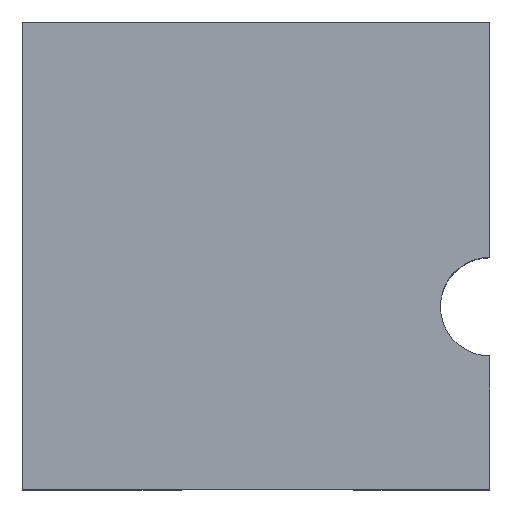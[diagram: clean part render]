
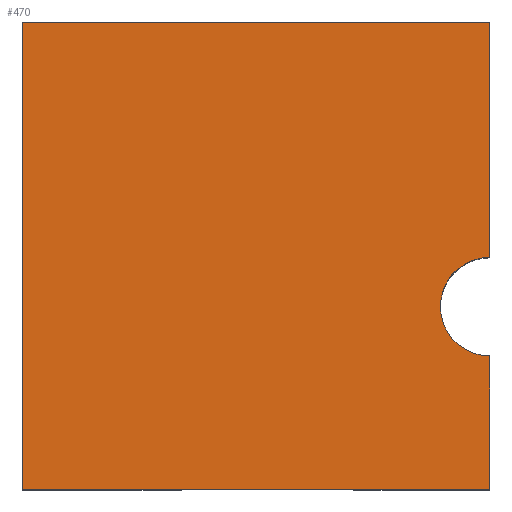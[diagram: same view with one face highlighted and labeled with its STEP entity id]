
A CAD part, top view. The second image highlights one B-rep face of the part: STEP entity #470.
In plain terms, the highlighted planar face has unit normal (0, 0, 1).
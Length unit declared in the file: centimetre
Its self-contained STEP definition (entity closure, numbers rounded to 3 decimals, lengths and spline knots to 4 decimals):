
#10 = CARTESIAN_POINT ( 'NONE',  ( 1000., 496.5169, 1000. ) ) ;
#12 = VERTEX_POINT ( 'NONE', #22 ) ;
#22 = CARTESIAN_POINT ( 'NONE',  ( 1000., 0., 1000. ) ) ;
#32 = DIRECTION ( 'NONE',  ( -1., 0., 0. ) ) ;
#41 = CARTESIAN_POINT ( 'NONE',  ( 1000., 1000., 1000. ) ) ;
#44 = VECTOR ( 'NONE', #345, 100. ) ;
#58 = CARTESIAN_POINT ( 'NONE',  ( 1000., 1000., 1000. ) ) ;
#60 = EDGE_CURVE ( 'NONE', #284, #12, #607, .T. ) ;
#77 = VECTOR ( 'NONE', #32, 100. ) ;
#94 = CARTESIAN_POINT ( 'NONE',  ( 0., 0., 1000. ) ) ;
#103 = DIRECTION ( 'NONE',  ( 0., 1., 0. ) ) ;
#121 = DIRECTION ( 'NONE',  ( 1., 0., 0. ) ) ;
#131 = VECTOR ( 'NONE', #217, 100. ) ;
#132 = CARTESIAN_POINT ( 'NONE',  ( 0., 0., 1000. ) ) ;
#141 = PLANE ( 'NONE',  #170 ) ;
#153 = DIRECTION ( 'NONE',  ( 1., 0., 0. ) ) ;
#161 = LINE ( 'NONE', #484, #131 ) ;
#163 = LINE ( 'NONE', #58, #383 ) ;
#170 = AXIS2_PLACEMENT_3D ( 'NONE', #94, #307, #153 ) ;
#174 = ORIENTED_EDGE ( 'NONE', *, *, #525, .T. ) ;
#217 = DIRECTION ( 'NONE',  ( 0., 1., 0. ) ) ;
#219 = EDGE_CURVE ( 'NONE', #397, #503, #225, .T. ) ;
#225 = CIRCLE ( 'NONE', #259, 105.4114 ) ;
#243 = LINE ( 'NONE', #510, #44 ) ;
#259 = AXIS2_PLACEMENT_3D ( 'NONE', #392, #401, #121 ) ;
#268 = ORIENTED_EDGE ( 'NONE', *, *, #219, .F. ) ;
#279 = CARTESIAN_POINT ( 'NONE',  ( 1000., 285.6941, 1000. ) ) ;
#284 = VERTEX_POINT ( 'NONE', #601 ) ;
#307 = DIRECTION ( 'NONE',  ( 0., 0., 1. ) ) ;
#345 = DIRECTION ( 'NONE',  ( 0., -1., 0. ) ) ;
#351 = LINE ( 'NONE', #409, #77 ) ;
#364 = EDGE_CURVE ( 'NONE', #582, #284, #243, .T. ) ;
#380 = CARTESIAN_POINT ( 'NONE',  ( 0., 1000., 1000. ) ) ;
#383 = VECTOR ( 'NONE', #103, 100. ) ;
#392 = CARTESIAN_POINT ( 'NONE',  ( 1000., 391.1055, 1000. ) ) ;
#397 = VERTEX_POINT ( 'NONE', #10 ) ;
#401 = DIRECTION ( 'NONE',  ( 0., 0., 1. ) ) ;
#404 = ORIENTED_EDGE ( 'NONE', *, *, #60, .T. ) ;
#409 = CARTESIAN_POINT ( 'NONE',  ( 0., 1000., 1000. ) ) ;
#464 = ORIENTED_EDGE ( 'NONE', *, *, #626, .T. ) ;
#470 = ADVANCED_FACE ( 'NONE', ( #526 ), #141, .T. ) ;
#484 = CARTESIAN_POINT ( 'NONE',  ( 1000., 1000., 1000. ) ) ;
#497 = EDGE_CURVE ( 'NONE', #12, #503, #163, .T. ) ;
#503 = VERTEX_POINT ( 'NONE', #279 ) ;
#510 = CARTESIAN_POINT ( 'NONE',  ( 0., 1000., 1000. ) ) ;
#525 = EDGE_CURVE ( 'NONE', #397, #649, #161, .T. ) ;
#526 = FACE_OUTER_BOUND ( 'NONE', #643, .T. ) ;
#582 = VERTEX_POINT ( 'NONE', #380 ) ;
#585 = ORIENTED_EDGE ( 'NONE', *, *, #364, .T. ) ;
#601 = CARTESIAN_POINT ( 'NONE',  ( 0., 0., 1000. ) ) ;
#607 = LINE ( 'NONE', #132, #679 ) ;
#626 = EDGE_CURVE ( 'NONE', #649, #582, #351, .T. ) ;
#643 = EDGE_LOOP ( 'NONE', ( #268, #174, #464, #585, #404, #647 ) ) ;
#647 = ORIENTED_EDGE ( 'NONE', *, *, #497, .T. ) ;
#649 = VERTEX_POINT ( 'NONE', #41 ) ;
#651 = DIRECTION ( 'NONE',  ( 1., 0., 0. ) ) ;
#679 = VECTOR ( 'NONE', #651, 100. ) ;
